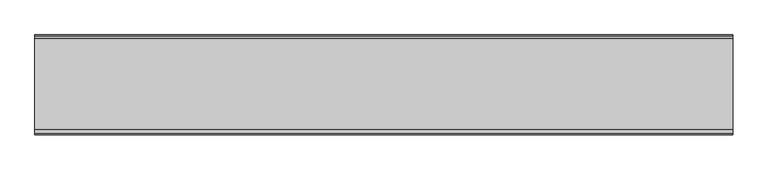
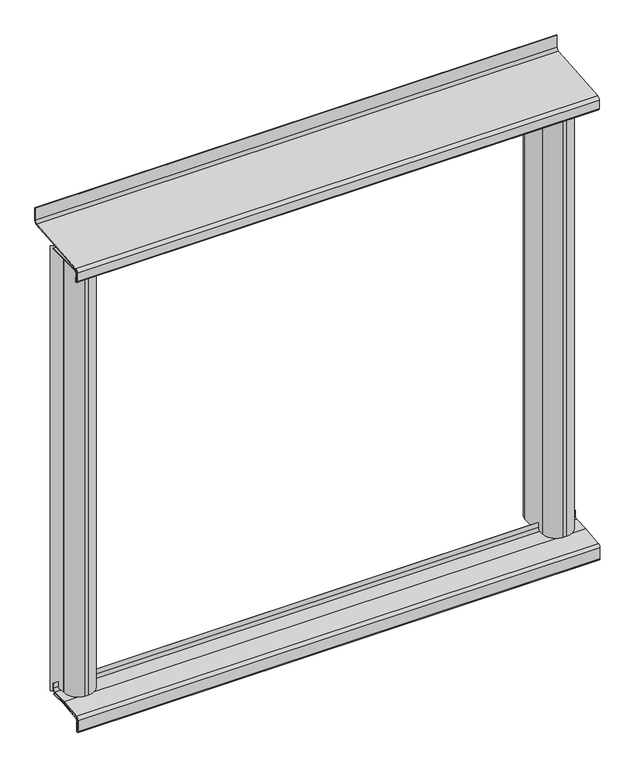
"""IFC4 building model written with IfcOpenShell, lengths in millimetres: plate geometry, Entourage de baie Vertical : Entourage de baie Vertical."""

import ifcopenshell
import ifcopenshell.guid

model = None  # the IFC model being written
_history = None  # IfcOwnerHistory: only IFC2X3 demands one
_inside = {}  # id of a spatial element -> (the spatial element, [elements in it])
_under = {}  # id of a project, library or spatial element -> (it, [spatial elements below it])
_declared = {}  # id of a project -> (the project, [libraries it declares])
_typed = {}  # id of a type object -> (the type object, [elements of that type])
_made_of = {}  # id of a material, layer set ... -> (it, [elements and type objects made of it])


def new_model(schema):
    """Start an empty IFC model of exactly this schema.

    Asked for "IFC4X3", IfcOpenShell would pick the latest addendum, in which some entities
    have other attributes; the version numbers below select the first issue.
    IFC2X3 requires an IfcOwnerHistory on every rooted entity: one is made here for all.
    """
    global model, _history
    if schema == "IFC4X3":
        model = ifcopenshell.file(schema_version=(4, 3, 0, 0))
    else:
        model = ifcopenshell.file(schema=schema)
    _inside.clear()
    _under.clear()
    _declared.clear()
    _typed.clear()
    _made_of.clear()
    _history = None
    if model.schema == "IFC2X3":
        org = make("IfcOrganization", Name="unknown")
        user = make(
            "IfcPersonAndOrganization",
            ThePerson=make("IfcPerson", FamilyName="unknown"),
            TheOrganization=org,
        )
        app = make(
            "IfcApplication",
            ApplicationDeveloper=org,
            Version="unknown",
            ApplicationFullName="unknown",
            ApplicationIdentifier="unknown",
        )
        _history = make(
            "IfcOwnerHistory",
            OwningUser=user,
            OwningApplication=app,
            ChangeAction="ADDED",
            CreationDate=0,
        )
    return model


def make(cls, **values):
    """One entity of the class cls with the attributes given. An attribute that is None is left unset."""
    return model.create_entity(
        cls, **{name: value for name, value in values.items() if value is not None}
    )


def rooted(cls, **values):
    """An entity with a GlobalId (a new one), such as an element, a storey or a relation."""
    return make(cls, GlobalId=ifcopenshell.guid.new(), OwnerHistory=_history, **values)


def si_unit(unit_type, name, prefix=None):
    """IfcSIUnit, for example si_unit("LENGTHUNIT", "METRE", prefix="MILLI")."""
    return make("IfcSIUnit", UnitType=unit_type, Prefix=prefix, Name=name)


def assignment(units):
    """IfcUnitAssignment: the units of a project."""
    return None if units is None else make("IfcUnitAssignment", Units=units)


def point(xyz):
    """IfcCartesianPoint."""
    return None if xyz is None else make("IfcCartesianPoint", Coordinates=xyz)


def direction(xyz):
    """IfcDirection."""
    return None if xyz is None else make("IfcDirection", DirectionRatios=xyz)


def frame(location, z_axis=None, x_axis=None):
    """IfcAxis2Placement3D, a coordinate frame: its origin and axes. An axis left out is left unset."""
    return make(
        "IfcAxis2Placement3D",
        Location=point(location),
        Axis=direction(z_axis),
        RefDirection=direction(x_axis),
    )


def frame_2d(location, x_axis=None):
    """IfcAxis2Placement2D, a coordinate frame in the plane: its origin and x axis."""
    return make(
        "IfcAxis2Placement2D", Location=point(location), RefDirection=direction(x_axis)
    )


def origin():
    """The frame at (0, 0, 0) with its axes left unset."""
    return frame((0.0, 0.0, 0.0))


def origin_with_axes():
    """The frame at (0, 0, 0) with the z axis (0, 0, 1) and the x axis (1, 0, 0) written out."""
    return frame((0.0, 0.0, 0.0), z_axis=(0.0, 0.0, 1.0), x_axis=(1.0, 0.0, 0.0))


def place(relative_to, where):
    """IfcLocalPlacement: puts the frame where relative to a parent placement (None: the world)."""
    return make(
        "IfcLocalPlacement", PlacementRelTo=relative_to, RelativePlacement=where
    )


def context(
    kind, dimensions, precision=None, world=None, true_north=None, identifier=None
):
    """IfcGeometricRepresentationContext, for example the 3D "Model" context."""
    return make(
        "IfcGeometricRepresentationContext",
        ContextIdentifier=identifier,
        ContextType=kind,
        CoordinateSpaceDimension=dimensions,
        Precision=precision,
        WorldCoordinateSystem=world,
        TrueNorth=true_north,
    )


def project(units=None, contexts=None):
    """IfcProject with its units and contexts."""
    return rooted(
        "IfcProject",
        Name="project",
        RepresentationContexts=contexts,
        UnitsInContext=assignment(units),
    )


def spatial(cls, under=None, at=None, **own):
    """A site, building, storey or space (cls), placed at a placement, below another one or the project."""
    s = rooted(cls, ObjectPlacement=at, **own)
    if under is not None:
        _under.setdefault(under.id(), (under, []))[1].append(s)
    return s


def polyline(points):
    """IfcPolyline through the points."""
    return make("IfcPolyline", Points=[point(p) for p in points])


def circle_curve(where, radius):
    """IfcCircle in the frame where."""
    return make("IfcCircle", Position=where, Radius=radius)


def trimmed(basis, trim1, trim2, sense, master):
    """IfcTrimmedCurve: the piece of a basis curve between two trims."""
    return make(
        "IfcTrimmedCurve",
        BasisCurve=basis,
        Trim1=trim1,
        Trim2=trim2,
        SenseAgreement=sense,
        MasterRepresentation=master,
    )


def segment(curve, same_sense, transition):
    """IfcCompositeCurveSegment."""
    return make(
        "IfcCompositeCurveSegment",
        Transition=transition,
        SameSense=same_sense,
        ParentCurve=curve,
    )


def composite_curve(segments, self_intersect=None):
    """IfcCompositeCurve: segments joined end to end."""
    return make("IfcCompositeCurve", Segments=segments, SelfIntersect=self_intersect)


def outline(outer, holes=None, kind="AREA"):
    """IfcArbitraryClosedProfileDef: a profile drawn as a closed curve; with holes, ...WithVoids."""
    if holes is None:
        return make("IfcArbitraryClosedProfileDef", ProfileType=kind, OuterCurve=outer)
    return make(
        "IfcArbitraryProfileDefWithVoids",
        ProfileType=kind,
        OuterCurve=outer,
        InnerCurves=holes,
    )


def extrude(swept, where, along, depth):
    """IfcExtrudedAreaSolid: the profile swept, set in the frame where, extruded along a direction by depth."""
    return make(
        "IfcExtrudedAreaSolid",
        SweptArea=swept,
        Position=where,
        ExtrudedDirection=direction(along),
        Depth=depth,
    )


def shape(context_of_items, identifier, shape_type, items):
    """IfcShapeRepresentation: the items that make up one representation, for example the "Body"."""
    return make(
        "IfcShapeRepresentation",
        ContextOfItems=context_of_items,
        RepresentationIdentifier=identifier,
        RepresentationType=shape_type,
        Items=items,
    )


def source(mapping_origin, context_of_items, identifier, shape_type, items):
    """IfcRepresentationMap: a shape defined once, which mapped items show again and again."""
    return make(
        "IfcRepresentationMap",
        MappingOrigin=mapping_origin,
        MappedRepresentation=shape(context_of_items, identifier, shape_type, items),
    )


def transform(
    local_origin,
    x_axis=None,
    y_axis=None,
    z_axis=None,
    scale=None,
    scale2=None,
    scale3=None,
    uniform=True,
):
    """IfcCartesianTransformationOperator3D, or its non-uniform kind. x_axis, y_axis, z_axis: its Axis1, 2, 3."""
    if uniform:
        return make(
            "IfcCartesianTransformationOperator3D",
            Axis1=direction(x_axis),
            Axis2=direction(y_axis),
            LocalOrigin=point(local_origin),
            Scale=scale,
            Axis3=direction(z_axis),
        )
    return make(
        "IfcCartesianTransformationOperator3DnonUniform",
        Axis1=direction(x_axis),
        Axis2=direction(y_axis),
        LocalOrigin=point(local_origin),
        Scale=scale,
        Axis3=direction(z_axis),
        Scale2=scale2,
        Scale3=scale3,
    )


def mapped(mapping_source, mapping_target):
    """IfcMappedItem: shows the shape of a source again, moved by a transform."""
    return make(
        "IfcMappedItem", MappingSource=mapping_source, MappingTarget=mapping_target
    )


def made_of(thing, what):
    """Note that an element or type object is made of a material, layer set ...; save() writes the relation."""
    if what is not None:
        _made_of.setdefault(what.id(), (what, []))[1].append(thing)
    return thing


def element(
    cls,
    number,
    at=None,
    inside=None,
    cuts=None,
    type_object=None,
    material=None,
    context=None,
    identifier="Body",
    shape_type=None,
    held_by="IfcProductDefinitionShape",
    body=None,
    shapes=None,
    **own,
):
    """One element of the class cls, such as IfcWall. Its Tag is "e" and its number.

    at: its placement. inside: the storey or other place that contains it. cuts: it is an
    opening in that element (IfcRelVoidsElement). A single representation is given by context,
    identifier, shape_type and body (its items); several are given by shapes. held_by: the class
    of the entity that holds the representations. save() writes the other relations.
    """
    e = rooted(cls, Tag="e%d" % number, ObjectPlacement=at, **own)
    if body is not None:
        shapes = [shape(context, identifier, shape_type, body)]
    if shapes is not None:
        e.Representation = make(held_by, Representations=shapes)
    if inside is not None:
        _inside.setdefault(inside.id(), (inside, []))[1].append(e)
    if cuts is not None:
        rooted(
            "IfcRelVoidsElement", RelatingBuildingElement=cuts, RelatedOpeningElement=e
        )
    if type_object is not None:
        _typed.setdefault(type_object.id(), (type_object, []))[1].append(e)
    return made_of(e, material)


def aggregate(whole, parts):
    """IfcRelAggregates: a whole, such as a stair, and the parts it consists of."""
    return rooted("IfcRelAggregates", RelatingObject=whole, RelatedObjects=parts)


def save(model, path):
    """Write the relations noted so far, then the file.

    IfcRelAggregates (storeys below a building ...), IfcRelContainedInSpatialStructure (elements
    in a storey), IfcRelDefinesByType, IfcRelAssociatesMaterial and IfcRelDeclares: one each for
    every whole, place, type object, material and project.
    """
    for whole, parts in _under.values():
        aggregate(whole, parts)
    for where, things in _inside.values():
        rooted(
            "IfcRelContainedInSpatialStructure",
            RelatedElements=things,
            RelatingStructure=where,
        )
    for kind, things in _typed.values():
        rooted("IfcRelDefinesByType", RelatedObjects=things, RelatingType=kind)
    for what, things in _made_of.values():
        rooted("IfcRelAssociatesMaterial", RelatedObjects=things, RelatingMaterial=what)
    for by, libraries in _declared.values():
        rooted("IfcRelDeclares", RelatingContext=by, RelatedDefinitions=libraries)
    model.write(path)


def plate_e0f6d8fb(model_context):
    return source(origin(), model_context, "Body", "SweptSolid", [
        extrude(outline(composite_curve([segment(trimmed(circle_curve(frame_2d((-454.5007855, -27.4207878)), 25.0), [point((-429.5007855, -27.4207878))], [point((-454.5007855, -52.4207878))], False, "CARTESIAN"), True, "CONTINUOUS"), segment(polyline([(-454.5007855, -52.4207878), (-461.7062463, -52.4207878)]), True, "CONTINUOUS"), segment(trimmed(circle_curve(frame_2d((-461.7062463, -27.4207878)), 25.0), [point((-461.7062463, -52.4207878))], [point((-486.7062463, -27.4207878))], False, "CARTESIAN"), True, "CONTINUOUS"), segment(polyline([(-486.7062463, -27.4207878), (-486.7062463, -25.3995747)]), True, "CONTINUOUS"), segment(trimmed(circle_curve(frame_2d((-511.7062463, -25.3995747)), 25.0), [point((-486.7062463, -25.3995747))], [point((-500.0, -3.3096721))], True, "CARTESIAN"), True, "CONTINUOUS"), segment(polyline([(-500.0, -3.3096721), (-499.5317501, -2.426076)]), True, "CONTINUOUS"), segment(trimmed(circle_curve(frame_2d((-511.7062463, -25.3995747)), 26.0), [point((-499.5317501, -2.426076))], [point((-485.7062463, -25.3995747))], False, "CARTESIAN"), True, "CONTINUOUS"), segment(polyline([(-485.7062463, -25.3995747), (-485.7062463, -27.4207878)]), True, "CONTINUOUS"), segment(trimmed(circle_curve(frame_2d((-461.7062463, -27.4207878)), 24.0), [point((-485.7062463, -27.4207878))], [point((-461.7062463, -51.4207878))], True, "CARTESIAN"), True, "CONTINUOUS"), segment(polyline([(-461.7062463, -51.4207878), (-454.5007855, -51.4207878)]), True, "CONTINUOUS"), segment(trimmed(circle_curve(frame_2d((-454.5007855, -27.4207878)), 24.0), [point((-454.5007855, -51.4207878))], [point((-430.5007855, -27.4207878))], True, "CARTESIAN"), True, "CONTINUOUS"), segment(polyline([(-430.5007855, -27.4207878), (-430.5007855, -25.6782832), (-430.5007855, 30.9687728), (-433.1051423, 40.6883645), (-432.1392164, 40.9471835), (-429.5007855, 31.1004253), (-429.5007855, -25.6782832), (-429.5007855, -27.4207878)]), True, "CONTINUOUS")], self_intersect=False)), origin_with_axes(), (0.0, 0.0, 1.0), 900.0),
        extrude(outline(composite_curve([segment(polyline([(-87.9055621, 905.2723483), (42.014991, 916.6389239)]), True, "CONTINUOUS"), segment(trimmed(circle_curve(frame_2d((41.5792122, 921.6198974)), 5.0), [point((42.014991, 916.6389239))], [point((46.5792122, 921.6198974))], True, "CARTESIAN"), True, "CONTINUOUS"), segment(polyline([(46.5792122, 921.6198974), (46.5792122, 946.1633549), (47.5792122, 946.1633549), (47.5792122, 921.3908146)]), True, "CONTINUOUS"), segment(trimmed(circle_curve(frame_2d((41.8292122, 921.3908146)), 5.75), [point((47.5792122, 921.3908146))], [point((42.3303578, 915.6626951))], False, "CARTESIAN"), True, "CONTINUOUS"), segment(polyline([(42.3303578, 915.6626951), (-87.5901953, 904.2961195)]), True, "CONTINUOUS"), segment(trimmed(circle_curve(frame_2d((-87.1544166, 899.315146)), 5.0), [point((-87.5901953, 904.2961195))], [point((-92.1544166, 899.315146))], True, "CARTESIAN"), True, "CONTINUOUS"), segment(polyline([(-92.1544166, 899.315146), (-92.1544166, 882.0809)]), True, "CONTINUOUS"), segment(trimmed(circle_curve(frame_2d((-90.1544166, 882.0809)), 2.0), [point((-92.1544166, 882.0809))], [point((-88.1544166, 882.0809))], True, "CARTESIAN"), True, "CONTINUOUS"), segment(polyline([(-88.1544166, 882.0809), (-88.1544166, 887.0809), (-87.1544166, 887.0809), (-87.1544166, 882.0809)]), True, "CONTINUOUS"), segment(trimmed(circle_curve(frame_2d((-90.1544166, 882.0809)), 3.0), [point((-87.1544166, 882.0809))], [point((-93.1544166, 882.0809))], False, "CARTESIAN"), True, "CONTINUOUS"), segment(polyline([(-93.1544166, 882.0809), (-93.1544166, 899.5442288)]), True, "CONTINUOUS"), segment(trimmed(circle_curve(frame_2d((-87.4044166, 899.5442288)), 5.75), [point((-93.1544166, 899.5442288))], [point((-87.9055621, 905.2723483))], False, "CARTESIAN"), True, "CONTINUOUS")], self_intersect=False)), frame((-500.0, 0.0, 0.0), z_axis=(1.0, 0.0, 0.0), x_axis=(0.0, 1.0, 0.0)), (0.0, 0.0, 1.0), 1000.0),
        extrude(outline(composite_curve([segment(polyline([(-84.9044166, 901.0), (-12.4207878, 901.0), (-12.4207878, 900.0), (-84.6544166, 900.0)]), True, "CONTINUOUS"), segment(trimmed(circle_curve(frame_2d((-84.6544166, 895.0)), 5.0), [point((-84.6544166, 900.0))], [point((-89.6544166, 895.0))], True, "CARTESIAN"), True, "CONTINUOUS"), segment(polyline([(-89.6544166, 895.0), (-89.6544166, 885.0), (-90.6544166, 885.0), (-90.6544166, 895.25)]), True, "CONTINUOUS"), segment(trimmed(circle_curve(frame_2d((-84.9044166, 895.25)), 5.75), [point((-90.6544166, 895.25))], [point((-84.9044166, 901.0))], False, "CARTESIAN"), True, "CONTINUOUS")], self_intersect=False)), frame((-500.0, 0.0, 0.0), z_axis=(1.0, 0.0, 0.0), x_axis=(0.0, 1.0, 0.0)), (0.0, 0.0, 1.0), 1000.0),
        extrude(outline(composite_curve([segment(polyline([(-18.1707878, 4.6075528), (-48.3374212, 4.6075528), (-90.1527157, -0.6347478)]), True, "CONTINUOUS"), segment(trimmed(circle_curve(frame_2d((-89.5307443, -5.5959122)), 5.0), [point((-90.1527157, -0.6347478))], [point((-94.5307443, -5.5959122))], True, "CARTESIAN"), True, "CONTINUOUS"), segment(polyline([(-94.5307443, -5.5959122), (-94.5307443, -27.7698921)]), True, "CONTINUOUS"), segment(trimmed(circle_curve(frame_2d((-93.0307443, -27.79899)), 1.5002822), [point((-94.5307443, -27.7698921))], [point((-91.5307443, -27.7698921))], True, "CARTESIAN"), True, "CONTINUOUS"), segment(polyline([(-91.5307443, -27.7698921), (-91.5307443, -10.2672814), (-90.5307443, -10.2672814), (-90.5307443, -27.7698921)]), True, "CONTINUOUS"), segment(trimmed(circle_curve(frame_2d((-93.0307443, -27.7672801)), 2.5000014), [point((-90.5307443, -27.7698921))], [point((-95.5307443, -27.7698921))], False, "CARTESIAN"), True, "CONTINUOUS"), segment(polyline([(-95.5307443, -27.7698921), (-95.5307443, -5.3414259)]), True, "CONTINUOUS"), segment(trimmed(circle_curve(frame_2d((-89.7807443, -5.3414259)), 5.75), [point((-95.5307443, -5.3414259))], [point((-90.4960114, 0.3639131))], False, "CARTESIAN"), True, "CONTINUOUS"), segment(polyline([(-90.4960114, 0.3639131), (-49.3374212, 5.5238839), (-18.4207878, 5.5238839)]), True, "CONTINUOUS"), segment(trimmed(circle_curve(frame_2d((-18.4207878, 10.5238839)), 5.0), [point((-18.4207878, 5.5238839))], [point((-13.4207878, 10.5238839))], True, "CARTESIAN"), True, "CONTINUOUS"), segment(polyline([(-13.4207878, 10.5238839), (-13.4207878, 20.5238839), (-12.4207878, 20.5238839), (-12.4207878, 10.3575528)]), True, "CONTINUOUS"), segment(trimmed(circle_curve(frame_2d((-18.1707878, 10.3575528)), 5.75), [point((-12.4207878, 10.3575528))], [point((-18.1707878, 4.6075528))], False, "CARTESIAN"), True, "CONTINUOUS")], self_intersect=False)), frame((-500.0, 0.0, 0.0), z_axis=(1.0, 0.0, 0.0), x_axis=(0.0, 1.0, 0.0)), (0.0, 0.0, 1.0), 1000.0),
        extrude(outline(composite_curve([segment(polyline([(-88.6501954, -4.0976749), (-49.0851444, 0.9163312), (-15.6782832, 0.9163312), (-15.6782832, 0.0), (-48.0851444, 0.0), (-88.3059035, -5.0971027)]), True, "CONTINUOUS"), segment(trimmed(circle_curve(frame_2d((-87.6772903, -10.0574299)), 5.0), [point((-88.3059035, -5.0971027))], [point((-92.6772903, -10.0574299))], True, "CARTESIAN"), True, "CONTINUOUS"), segment(polyline([(-92.6772903, -10.0574299), (-92.6772903, -27.9990603), (-93.6772903, -27.9990603), (-93.6772903, -9.8020511)]), True, "CONTINUOUS"), segment(trimmed(circle_curve(frame_2d((-87.9272903, -9.8020511)), 5.75), [point((-93.6772903, -9.8020511))], [point((-88.6501954, -4.0976749))], False, "CARTESIAN"), True, "CONTINUOUS")], self_intersect=False)), frame((-500.0, 0.0, 0.0), z_axis=(1.0, 0.0, 0.0), x_axis=(0.0, 1.0, 0.0)), (0.0, 0.0, 1.0), 1000.0),
        extrude(outline(composite_curve([segment(polyline([(429.5007855, -27.4207878), (429.5007855, 31.1004253), (432.1392164, 40.9471835), (433.1051423, 40.6883645), (430.5007855, 30.9687728), (430.5007855, -27.4207878)]), True, "CONTINUOUS"), segment(trimmed(circle_curve(frame_2d((454.5007855, -27.4207878)), 24.0), [point((430.5007855, -27.4207878))], [point((454.5007855, -51.4207878))], True, "CARTESIAN"), True, "CONTINUOUS"), segment(polyline([(454.5007855, -51.4207878), (461.7062463, -51.4207878)]), True, "CONTINUOUS"), segment(trimmed(circle_curve(frame_2d((461.7062463, -27.4207878)), 24.0), [point((461.7062463, -51.4207878))], [point((485.7062463, -27.4207878))], True, "CARTESIAN"), True, "CONTINUOUS"), segment(polyline([(485.7062463, -27.4207878), (485.7062463, -25.3995747)]), True, "CONTINUOUS"), segment(trimmed(circle_curve(frame_2d((511.7062463, -25.3995747)), 26.0), [point((485.7062463, -25.3995747))], [point((499.5317501, -2.426076))], False, "CARTESIAN"), True, "CONTINUOUS"), segment(polyline([(499.5317501, -2.426076), (500.0, -3.3096721)]), True, "CONTINUOUS"), segment(trimmed(circle_curve(frame_2d((511.7062463, -25.3995747)), 25.0), [point((500.0, -3.3096721))], [point((486.7062463, -25.3995747))], True, "CARTESIAN"), True, "CONTINUOUS"), segment(polyline([(486.7062463, -25.3995747), (486.7062463, -27.4207878)]), True, "CONTINUOUS"), segment(trimmed(circle_curve(frame_2d((461.7062463, -27.4207878)), 25.0), [point((486.7062463, -27.4207878))], [point((461.7062463, -52.4207878))], False, "CARTESIAN"), True, "CONTINUOUS"), segment(polyline([(461.7062463, -52.4207878), (454.5007855, -52.4207878)]), True, "CONTINUOUS"), segment(trimmed(circle_curve(frame_2d((454.5007855, -27.4207878)), 25.0), [point((454.5007855, -52.4207878))], [point((429.5007855, -27.4207878))], False, "CARTESIAN"), True, "CONTINUOUS")], self_intersect=False)), origin_with_axes(), (0.0, 0.0, 1.0), 900.0),
    ])


if __name__ == "__main__":
    model = new_model("IFC4")
    model_context = context("Model", 3, world=origin())
    ifc_project = project(units=[si_unit("LENGTHUNIT", "METRE", prefix="MILLI")], contexts=[model_context])
    site = spatial("IfcSite", under=ifc_project)
    building = spatial("IfcBuilding", under=site)
    placement = place(None, origin())
    plate_shape = plate_e0f6d8fb(model_context)
    element("IfcPlate", 1, ObjectType="Entourage de baie Vertical : Entourage de baie Vertical", at=placement, inside=building, context=model_context, shape_type="MappedRepresentation", body=[
        mapped(plate_shape, transform((0.0, 0.0, 0.0), x_axis=(1.0, 0.0, 0.0), y_axis=(0.0, 1.0, 0.0), z_axis=(0.0, 0.0, 1.0))),
    ])
    save(model, "model.ifc")
